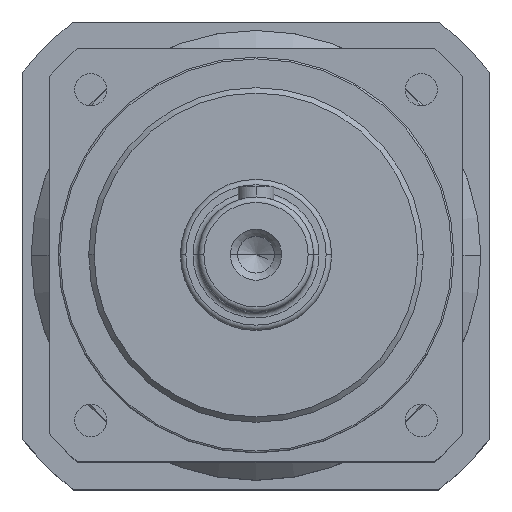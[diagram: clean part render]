
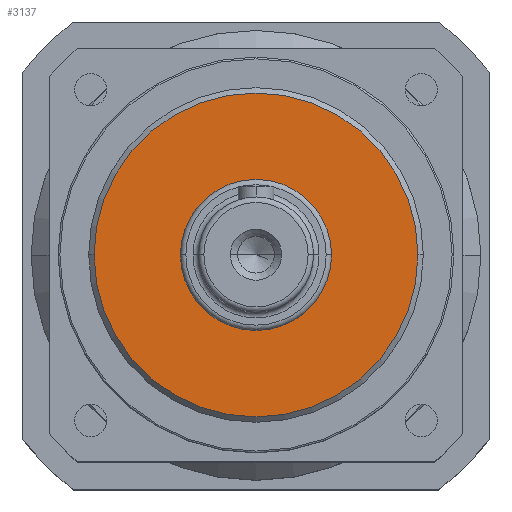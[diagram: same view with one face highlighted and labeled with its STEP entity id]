
A CAD part, top view. The second image highlights one B-rep face of the part: STEP entity #3137.
In plain terms, the highlighted planar face has unit normal (0, 0, 1).
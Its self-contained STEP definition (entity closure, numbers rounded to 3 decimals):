
#48 = ORIENTED_EDGE ( 'NONE', *, *, #3471, .T. ) ;
#131 = DIRECTION ( 'NONE',  ( 1., 0., 0. ) ) ;
#149 = DIRECTION ( 'NONE',  ( 0., 0., 1. ) ) ;
#243 = CIRCLE ( 'NONE', #5872, 21. ) ;
#568 = AXIS2_PLACEMENT_3D ( 'NONE', #1119, #4311, #5284 ) ;
#697 = EDGE_CURVE ( 'NONE', #778, #4077, #3865, .T. ) ;
#778 = VERTEX_POINT ( 'NONE', #2746 ) ;
#973 = FACE_BOUND ( 'NONE', #2423, .T. ) ;
#1119 = CARTESIAN_POINT ( 'NONE',  ( 0., 0., 23.5 ) ) ;
#1146 = CARTESIAN_POINT ( 'NONE',  ( -21., 0., 23.5 ) ) ;
#1172 = DIRECTION ( 'NONE',  ( 1., 0., 0. ) ) ;
#1263 = VERTEX_POINT ( 'NONE', #3765 ) ;
#1303 = DIRECTION ( 'NONE',  ( 0., 0., 1. ) ) ;
#1500 = VERTEX_POINT ( 'NONE', #2072 ) ;
#1507 = EDGE_CURVE ( 'NONE', #4077, #778, #243, .T. ) ;
#1594 = CARTESIAN_POINT ( 'NONE',  ( 0., 0., 23.5 ) ) ;
#1904 = DIRECTION ( 'NONE',  ( 1., 0., 0. ) ) ;
#2072 = CARTESIAN_POINT ( 'NONE',  ( 45., 0., 23.5 ) ) ;
#2215 = ORIENTED_EDGE ( 'NONE', *, *, #1507, .F. ) ;
#2267 = CARTESIAN_POINT ( 'NONE',  ( 0., 0., 23.5 ) ) ;
#2272 = CARTESIAN_POINT ( 'NONE',  ( 0., 0., 23.5 ) ) ;
#2423 = EDGE_LOOP ( 'NONE', ( #4693, #2215 ) ) ;
#2746 = CARTESIAN_POINT ( 'NONE',  ( 21., 0., 23.5 ) ) ;
#3137 = ADVANCED_FACE ( 'NONE', ( #973, #5184 ), #3169, .T. ) ;
#3138 = DIRECTION ( 'NONE',  ( 1., 0., 0. ) ) ;
#3169 = PLANE ( 'NONE',  #3725 ) ;
#3186 = DIRECTION ( 'NONE',  ( 0., 0., 1. ) ) ;
#3471 = EDGE_CURVE ( 'NONE', #1263, #1500, #4618, .T. ) ;
#3587 = ORIENTED_EDGE ( 'NONE', *, *, #4971, .T. ) ;
#3725 = AXIS2_PLACEMENT_3D ( 'NONE', #2272, #3186, #1904 ) ;
#3765 = CARTESIAN_POINT ( 'NONE',  ( -45., 0., 23.5 ) ) ;
#3865 = CIRCLE ( 'NONE', #4932, 21. ) ;
#3898 = DIRECTION ( 'NONE',  ( 0., 0., 1. ) ) ;
#4077 = VERTEX_POINT ( 'NONE', #1146 ) ;
#4311 = DIRECTION ( 'NONE',  ( 0., 0., 1. ) ) ;
#4446 = AXIS2_PLACEMENT_3D ( 'NONE', #1594, #3898, #1172 ) ;
#4618 = CIRCLE ( 'NONE', #568, 45. ) ;
#4693 = ORIENTED_EDGE ( 'NONE', *, *, #697, .F. ) ;
#4932 = AXIS2_PLACEMENT_3D ( 'NONE', #2267, #1303, #3138 ) ;
#4971 = EDGE_CURVE ( 'NONE', #1500, #1263, #5384, .T. ) ;
#5001 = EDGE_LOOP ( 'NONE', ( #48, #3587 ) ) ;
#5184 = FACE_OUTER_BOUND ( 'NONE', #5001, .T. ) ;
#5284 = DIRECTION ( 'NONE',  ( 1., 0., 0. ) ) ;
#5384 = CIRCLE ( 'NONE', #4446, 45. ) ;
#5791 = CARTESIAN_POINT ( 'NONE',  ( 0., 0., 23.5 ) ) ;
#5872 = AXIS2_PLACEMENT_3D ( 'NONE', #5791, #149, #131 ) ;
